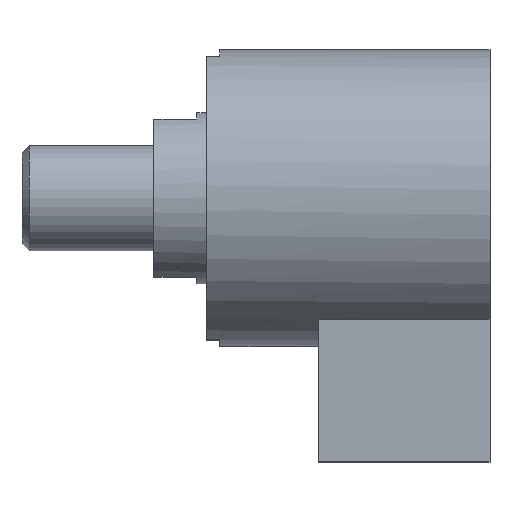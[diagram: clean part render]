
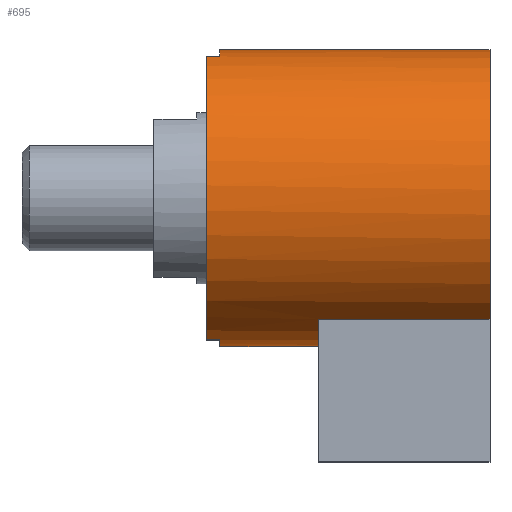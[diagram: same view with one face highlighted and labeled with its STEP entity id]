
A CAD part, top view. The second image highlights one B-rep face of the part: STEP entity #695.
In plain terms, the highlighted cylindrical face has radius 22.5 mm (diameter 45 mm), a partial arc.
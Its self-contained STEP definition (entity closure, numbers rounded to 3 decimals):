
#58=CARTESIAN_POINT('',(28.,0.,0.));
#59=DIRECTION('',(1.,0.,0.));
#60=DIRECTION('',(0.,0.956,0.295));
#61=AXIS2_PLACEMENT_3D('',#58,#59,#60);
#198=CARTESIAN_POINT('',(30.,0.,0.));
#199=DIRECTION('',(-1.,0.,0.));
#200=DIRECTION('',(0.,-1.,0.));
#201=AXIS2_PLACEMENT_3D('',#198,#199,#200);
#203=DIRECTION('',(-1.,0.,0.));
#204=VECTOR('',#203,2.);
#205=CARTESIAN_POINT('',(30.,-21.5,6.633));
#206=LINE('530',#205,#204);
#207=DIRECTION('',(-1.,0.,0.));
#208=VECTOR('',#207,2.);
#209=CARTESIAN_POINT('',(30.,21.5,6.633));
#210=LINE('529',#209,#208);
#211=CARTESIAN_POINT('',(30.,0.,0.));
#212=DIRECTION('',(-1.,0.,0.));
#213=DIRECTION('',(0.,0.956,0.295));
#214=AXIS2_PLACEMENT_3D('',#211,#212,#213);
#216=DIRECTION('',(-1.,0.,0.));
#217=VECTOR('',#216,41.);
#218=CARTESIAN_POINT('',(71.,22.5,0.));
#219=LINE('531',#218,#217);
#220=CARTESIAN_POINT('',(71.,0.,0.));
#221=DIRECTION('',(1.,0.,0.));
#222=DIRECTION('',(0.,1.,0.));
#223=AXIS2_PLACEMENT_3D('',#220,#221,#222);
#225=DIRECTION('',(-1.,0.,0.));
#226=VECTOR('',#225,26.);
#227=CARTESIAN_POINT('',(71.,-18.364,13.));
#228=LINE('519',#227,#226);
#229=CARTESIAN_POINT('',(45.,0.,0.));
#230=DIRECTION('',(-1.,0.,0.));
#231=DIRECTION('',(0.,-1.,0.));
#232=AXIS2_PLACEMENT_3D('',#229,#230,#231);
#234=DIRECTION('',(-1.,0.,0.));
#235=VECTOR('',#234,15.);
#236=CARTESIAN_POINT('',(45.,-22.5,0.));
#237=LINE('534',#236,#235);
#337=CARTESIAN_POINT('',(28.,21.5,6.633));
#339=VERTEX_POINT('',#337);
#340=CARTESIAN_POINT('',(28.,-21.5,6.633));
#342=VERTEX_POINT('',#340);
#345=CARTESIAN_POINT('',(30.,21.5,6.633));
#347=VERTEX_POINT('',#345);
#348=CARTESIAN_POINT('',(30.,-21.5,6.633));
#350=VERTEX_POINT('',#348);
#360=CARTESIAN_POINT('',(71.,-18.364,13.));
#361=VERTEX_POINT('',#360);
#364=CARTESIAN_POINT('',(45.,-18.364,13.));
#365=VERTEX_POINT('',#364);
#384=CARTESIAN_POINT('',(45.,-22.5,0.));
#385=VERTEX_POINT('',#384);
#386=CARTESIAN_POINT('',(71.,22.5,0.));
#387=VERTEX_POINT('',#386);
#388=CARTESIAN_POINT('',(30.,22.5,0.));
#389=VERTEX_POINT('',#388);
#390=CARTESIAN_POINT('',(30.,-22.5,0.));
#391=VERTEX_POINT('',#390);
#675=CARTESIAN_POINT('',(74.55,0.,0.));
#676=DIRECTION('',(-1.,0.,0.));
#677=DIRECTION('',(0.,1.,0.));
#678=AXIS2_PLACEMENT_3D('',#675,#676,#677);
#679=CYLINDRICAL_SURFACE('510',#678,22.5);
#680=ORIENTED_EDGE('527',*,*,#457,.T.);
#682=ORIENTED_EDGE('530',*,*,#681,.T.);
#683=ORIENTED_EDGE('533',*,*,#483,.F.);
#684=ORIENTED_EDGE('529',*,*,#472,.F.);
#685=ORIENTED_EDGE('528',*,*,#445,.T.);
#686=ORIENTED_EDGE('531',*,*,#432,.F.);
#687=ORIENTED_EDGE('522',*,*,#405,.T.);
#689=ORIENTED_EDGE('519',*,*,#688,.T.);
#691=ORIENTED_EDGE('518',*,*,#690,.F.);
#692=ORIENTED_EDGE('534',*,*,#425,.T.);
#693=EDGE_LOOP('510',(#680,#682,#683,#684,#685,#686,#687,#689,#691,#692));
#694=FACE_OUTER_BOUND('510',#693,.F.);
#695=ADVANCED_FACE('510',(#694),#679,.T.);
#62=CIRCLE('533',#61,22.5);
#202=CIRCLE('527',#201,22.5);
#215=CIRCLE('528',#214,22.5);
#224=CIRCLE('522',#223,22.5);
#233=CIRCLE('518',#232,22.5);
#405=EDGE_CURVE('522',#387,#361,#224,.T.);
#425=EDGE_CURVE('534',#385,#391,#237,.T.);
#432=EDGE_CURVE('531',#387,#389,#219,.T.);
#445=EDGE_CURVE('528',#347,#389,#215,.T.);
#457=EDGE_CURVE('527',#391,#350,#202,.T.);
#472=EDGE_CURVE('529',#347,#339,#210,.T.);
#483=EDGE_CURVE('533',#339,#342,#62,.T.);
#681=EDGE_CURVE('530',#350,#342,#206,.T.);
#688=EDGE_CURVE('519',#361,#365,#228,.T.);
#690=EDGE_CURVE('518',#385,#365,#233,.T.);
